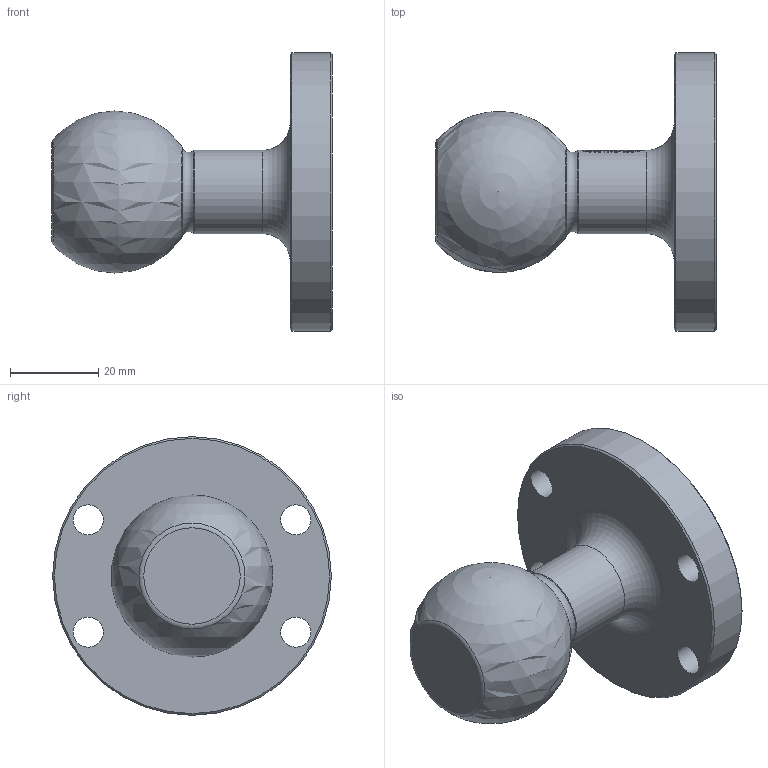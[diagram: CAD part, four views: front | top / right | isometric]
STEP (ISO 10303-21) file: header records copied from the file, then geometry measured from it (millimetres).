
FILE_DESCRIPTION(/* description */ ('HEAVY DUTY BALL BASE'),/* implementation_level */ '2;1');
FILE_NAME(/* name */ 'C:\Users\Doug Biddinger\Desktop\ADandD Website 3-28-18\HDPL\HDPL-BALLBASE.stp',/* time_stamp */ '2018-03-28T15:33:58-04:00',/* author */ ('Doug Biddinger'),/* organization */ (''),/* preprocessor_version */ 'ST-DEVELOPER v16.13',/* originating_system */ 'Autodesk Inventor 2018',/* authorisation */ '');
FILE_SCHEMA (('AUTOMOTIVE_DESIGN { 1 0 10303 214 3 1 1 }'));
Length unit declared in the file: inch
Products named in the file (1): 60096
Bounding box: 63.5 x 62.99 x 62.99 mm (x, y, z)
Volume: 60021.4 mm3; surface area: 13427.5 mm2
Topology: 1 solids, 1 shells, 549 faces, 1507 edges, 1004 vertices
Faces by surface type: plane 301, bspline 172, cylinder 68, torus 5, cone 2, sphere 1
Full cylindrical faces by diameter (mm): 6.8 x4, 18.821 x1, 62.992 x1
Entity records: 20832 total; most frequent: CARTESIAN_POINT 8127, ORIENTED_EDGE 2860, DIRECTION 2154, EDGE_CURVE 1430, VERTEX_POINT 960, LINE 760, VECTOR 760, AXIS2_PLACEMENT_3D 697
